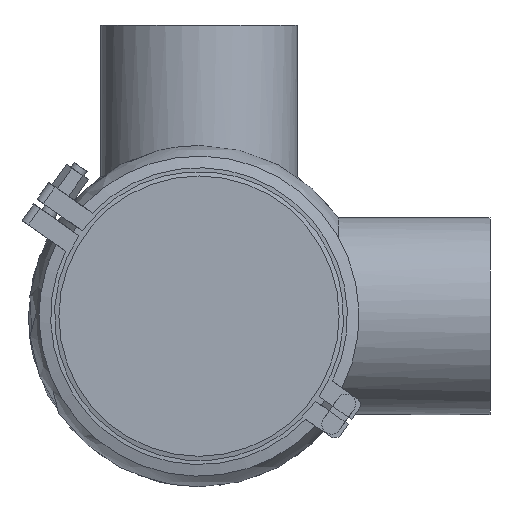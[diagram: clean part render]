
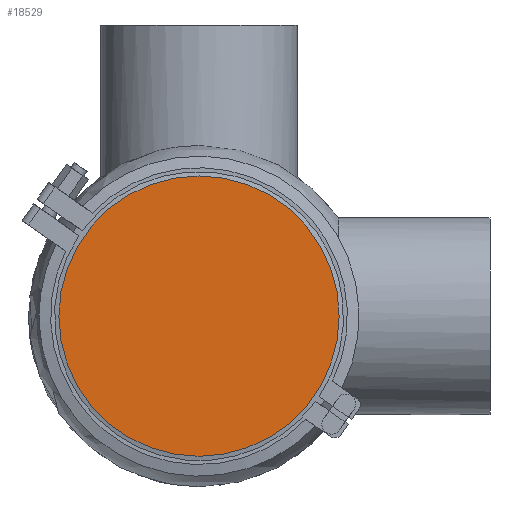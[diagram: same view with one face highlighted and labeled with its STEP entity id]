
A CAD part, front view. The second image highlights one B-rep face of the part: STEP entity #18529.
In plain terms, the highlighted planar face has unit normal (0, -1, 0).
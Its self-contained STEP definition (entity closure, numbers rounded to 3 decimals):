
#2283 = DIRECTION ( 'NONE',  ( 0., 0., -1. ) ) ;
#2493 = FACE_OUTER_BOUND ( 'NONE', #6501, .T. ) ;
#5503 = DIRECTION ( 'NONE',  ( 0., -1., 0. ) ) ;
#5736 = CARTESIAN_POINT ( 'NONE',  ( -72.25, 0., 0. ) ) ;
#6292 = CARTESIAN_POINT ( 'NONE',  ( 0., 0., 0. ) ) ;
#6501 = EDGE_LOOP ( 'NONE', ( #19868 ) ) ;
#7713 = CIRCLE ( 'NONE', #11104, 72.25 ) ;
#8637 = EDGE_CURVE ( 'NONE', #17740, #17740, #7713, .T. ) ;
#9018 = PLANE ( 'NONE',  #19790 ) ;
#9804 = DIRECTION ( 'NONE',  ( 0., 0., 1. ) ) ;
#11104 = AXIS2_PLACEMENT_3D ( 'NONE', #6292, #12756, #9804 ) ;
#11554 = CARTESIAN_POINT ( 'NONE',  ( 0., 0., 72.25 ) ) ;
#12756 = DIRECTION ( 'NONE',  ( 0., 1., 0. ) ) ;
#17740 = VERTEX_POINT ( 'NONE', #11554 ) ;
#18529 = ADVANCED_FACE ( 'NONE', ( #2493 ), #9018, .T. ) ;
#19790 = AXIS2_PLACEMENT_3D ( 'NONE', #5736, #5503, #2283 ) ;
#19868 = ORIENTED_EDGE ( 'NONE', *, *, #8637, .F. ) ;
